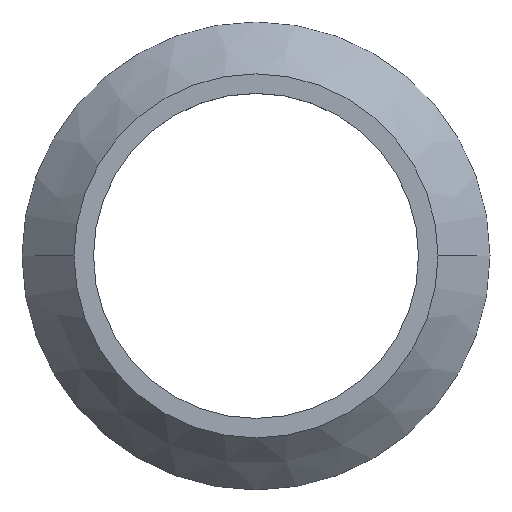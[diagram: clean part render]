
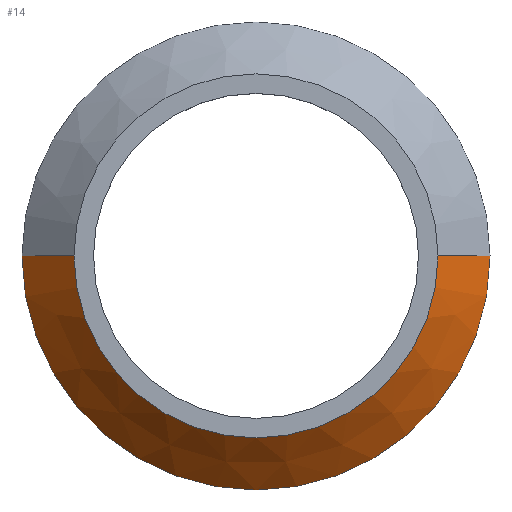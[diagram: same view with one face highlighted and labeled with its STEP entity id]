
A CAD part, top view. The second image highlights one B-rep face of the part: STEP entity #14.
In plain terms, the highlighted conical face has half-angle 45 degrees and reference radius 7 mm.
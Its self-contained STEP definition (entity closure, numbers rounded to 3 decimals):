
#4 = VERTEX_POINT ( 'NONE', #128 ) ;
#8 = VERTEX_POINT ( 'NONE', #25 ) ;
#9 = EDGE_LOOP ( 'NONE', ( #84, #33, #125, #210 ) ) ;
#14 = ADVANCED_FACE ( 'NONE', ( #18 ), #144, .T. ) ;
#15 = CARTESIAN_POINT ( 'NONE',  ( -7., 0., 2. ) ) ;
#18 = FACE_OUTER_BOUND ( 'NONE', #9, .T. ) ;
#21 = VECTOR ( 'NONE', #181, 1000. ) ;
#23 = LINE ( 'NONE', #15, #21 ) ;
#25 = CARTESIAN_POINT ( 'NONE',  ( -7., 0., 2. ) ) ;
#31 = DIRECTION ( 'NONE',  ( 1., 0., 0. ) ) ;
#32 = CARTESIAN_POINT ( 'NONE',  ( 7., 0., 2. ) ) ;
#33 = ORIENTED_EDGE ( 'NONE', *, *, #206, .F. ) ;
#39 = LINE ( 'NONE', #32, #68 ) ;
#61 = DIRECTION ( 'NONE',  ( 0., 0., 1. ) ) ;
#68 = VECTOR ( 'NONE', #130, 1000. ) ;
#72 = CARTESIAN_POINT ( 'NONE',  ( 0., 0., 2. ) ) ;
#76 = DIRECTION ( 'NONE',  ( 1., 0., 0. ) ) ;
#84 = ORIENTED_EDGE ( 'NONE', *, *, #136, .F. ) ;
#85 = AXIS2_PLACEMENT_3D ( 'NONE', #72, #114, #31 ) ;
#91 = CARTESIAN_POINT ( 'NONE',  ( 0., 0., 0. ) ) ;
#102 = EDGE_CURVE ( 'NONE', #8, #167, #23, .T. ) ;
#103 = DIRECTION ( 'NONE',  ( -1., 0., 0. ) ) ;
#108 = CARTESIAN_POINT ( 'NONE',  ( 0., 0., 2. ) ) ;
#114 = DIRECTION ( 'NONE',  ( 0., 0., 1. ) ) ;
#117 = CARTESIAN_POINT ( 'NONE',  ( -9., 0., 0. ) ) ;
#125 = ORIENTED_EDGE ( 'NONE', *, *, #102, .T. ) ;
#128 = CARTESIAN_POINT ( 'NONE',  ( 9., 0., 0. ) ) ;
#130 = DIRECTION ( 'NONE',  ( 0.707, 0., -0.707 ) ) ;
#136 = EDGE_CURVE ( 'NONE', #171, #4, #39, .T. ) ;
#139 = CIRCLE ( 'NONE', #85, 7. ) ;
#143 = DIRECTION ( 'NONE',  ( 0., 0., -1. ) ) ;
#144 = CONICAL_SURFACE ( 'NONE', #173, 7., 0.785 ) ;
#148 = CARTESIAN_POINT ( 'NONE',  ( 7., 0., 2. ) ) ;
#167 = VERTEX_POINT ( 'NONE', #117 ) ;
#171 = VERTEX_POINT ( 'NONE', #148 ) ;
#173 = AXIS2_PLACEMENT_3D ( 'NONE', #108, #143, #103 ) ;
#181 = DIRECTION ( 'NONE',  ( -0.707, 0., -0.707 ) ) ;
#186 = CIRCLE ( 'NONE', #213, 9. ) ;
#197 = EDGE_CURVE ( 'NONE', #167, #4, #186, .T. ) ;
#206 = EDGE_CURVE ( 'NONE', #8, #171, #139, .T. ) ;
#210 = ORIENTED_EDGE ( 'NONE', *, *, #197, .T. ) ;
#213 = AXIS2_PLACEMENT_3D ( 'NONE', #91, #61, #76 ) ;
